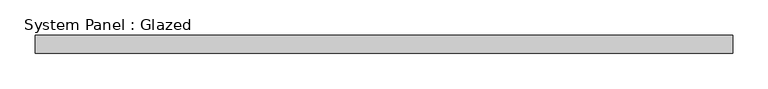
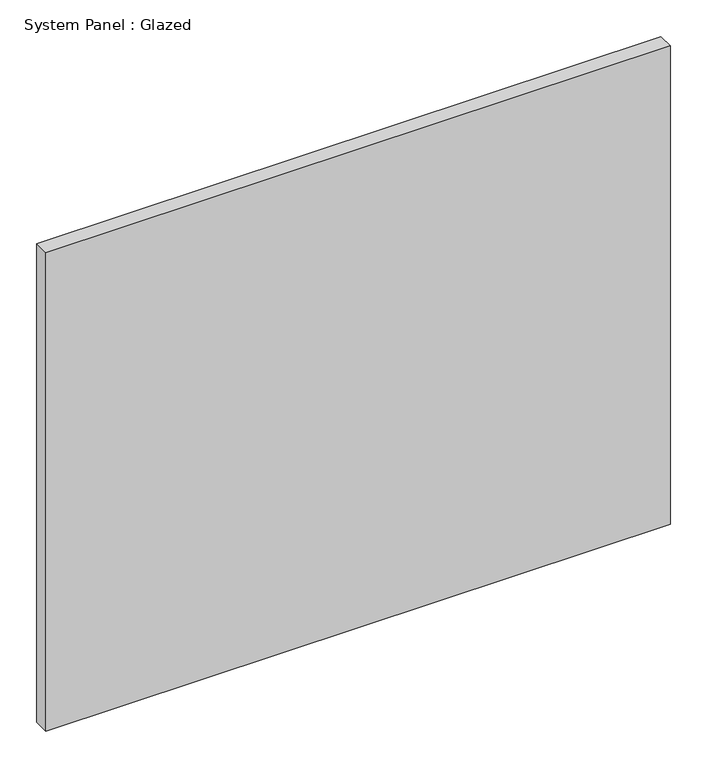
"""IFC4 building model written with IfcOpenShell, lengths in millimetres: plate geometry, System Panel : Glazed."""

from ifc_helpers import new_model, si_unit, origin, origin_with_axes, place, context, project, spatial, polyline, outline, extrude, source, transform, mapped, element, save


def system_panel_glazed_f86903de(model_context):
    return source(origin(), model_context, "Body", "SweptSolid", [
        extrude(outline(polyline([(493.0321429, 19.05), (-493.0321429, 19.05), (-493.0321429, 44.45), (493.0321429, 44.45), (493.0321429, 19.05)])), origin_with_axes(), (0.0, 0.0, 1.0), 798.5967633),
    ])


if __name__ == "__main__":
    model = new_model("IFC4")
    model_context = context("Model", 3, world=origin())
    ifc_project = project(units=[si_unit("LENGTHUNIT", "METRE", prefix="MILLI")], contexts=[model_context])
    site = spatial("IfcSite", under=ifc_project)
    building = spatial("IfcBuilding", under=site)
    placement = place(None, origin())
    system_panel_glazed_shape = system_panel_glazed_f86903de(model_context)
    element("IfcPlate", 1, ObjectType="System Panel : Glazed", at=placement, inside=building, context=model_context, shape_type="MappedRepresentation", body=[
        mapped(system_panel_glazed_shape, transform((0.0, 0.0, 0.0), x_axis=(1.0, 0.0, 0.0), y_axis=(0.0, 1.0, 0.0), z_axis=(0.0, 0.0, 1.0))),
    ])
    save(model, "model.ifc")
